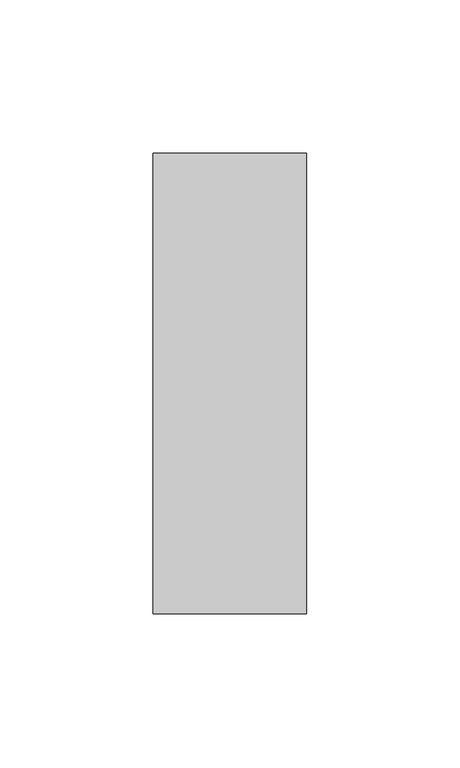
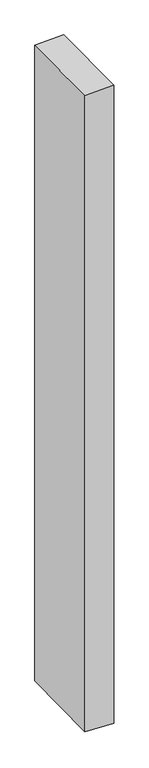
"""IFC4 building model written with IfcOpenShell, lengths in millimetres: member geometry, Прямоугольный импост : 50 x 150 мм."""

from ifc_helpers import new_model, si_unit, origin, place, context, project, spatial, faceted_brep, source, transform, mapped, element, save


def member_f499233a(model_context):
    return source(origin(), model_context, "Body", "Brep", [
        faceted_brep([(-25.0, 75.0, -0.2606157), (25.0, 75.0, 1.599341), (25.0, 75.0, -1166.6487674), (-25.0, 75.0, -1164.9602391), (-25.0, -75.0, -1.599341), (-25.0, -75.0, -1167.0649135), (25.0, -75.0, 0.2606157), (25.0, -75.0, -1168.7534418)], [[[0, 1, 2, 3]], [[4, 0, 3, 5]], [[6, 4, 5, 7]], [[1, 6, 7, 2]], [[1, 0, 4, 6]], [[2, 7, 5, 3]]]),
    ])


if __name__ == "__main__":
    model = new_model("IFC4")
    model_context = context("Model", 3, world=origin())
    ifc_project = project(units=[si_unit("LENGTHUNIT", "METRE", prefix="MILLI")], contexts=[model_context])
    site = spatial("IfcSite", under=ifc_project)
    building = spatial("IfcBuilding", under=site)
    placement = place(None, origin())
    member_shape = member_f499233a(model_context)
    element("IfcMember", 1, ObjectType="Прямоугольный импост : 50 x 150 мм", at=placement, inside=building, context=model_context, shape_type="MappedRepresentation", body=[
        mapped(member_shape, transform((0.0, 0.0, 0.0), x_axis=(1.0, 0.0, 0.0), y_axis=(0.0, 1.0, 0.0), z_axis=(0.0, 0.0, 1.0))),
    ])
    save(model, "model.ifc")
